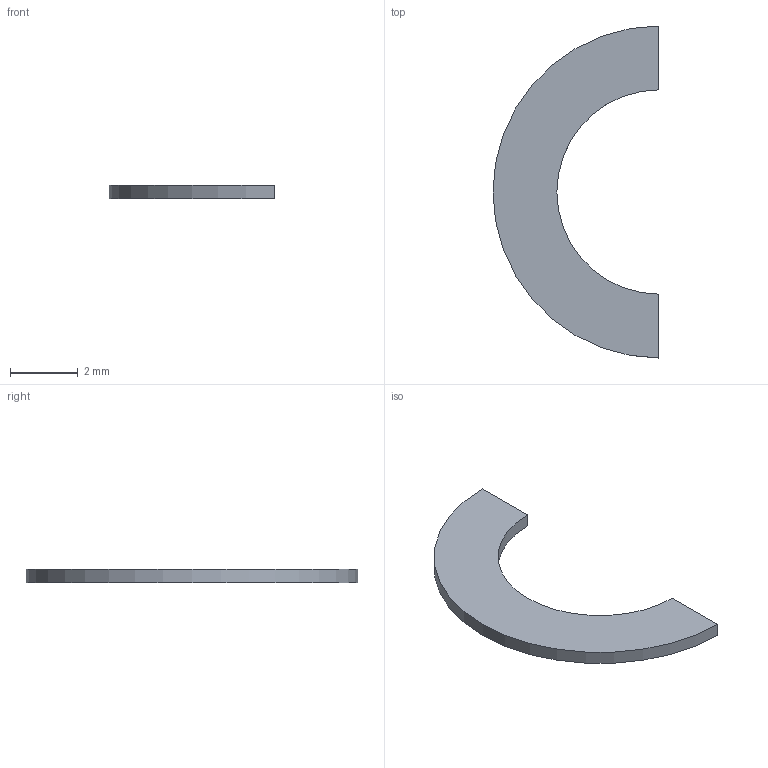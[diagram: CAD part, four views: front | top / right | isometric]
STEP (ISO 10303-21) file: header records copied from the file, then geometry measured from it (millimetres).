
FILE_DESCRIPTION(('Open CASCADE Model'),'2;1');
FILE_NAME('Open CASCADE Shape Model','2026-09-24T19:52:59',('Author'),( 'Open CASCADE'),'Open CASCADE STEP processor 7.8','Open CASCADE 7.8' ,'Unknown');
FILE_SCHEMA(('AUTOMOTIVE_DESIGN { 1 0 10303 214 1 1 1 1 }'));
Length unit declared in the file: millimetre
Products named in the file (1): Open CASCADE STEP translator 7.8 42
Bounding box: 4.9 x 9.8 x 0.4 mm (x, y, z)
Volume: 9.4 mm3; surface area: 58.3 mm2
Topology: 1 solids, 1 shells, 6 faces, 12 edges, 8 vertices
Faces by surface type: plane 4, cylinder 2
Entity records: 310 total; most frequent: CARTESIAN_POINT 67, DIRECTION 38, ORIENTED_EDGE 24, PCURVE 24, DEFINITIONAL_REPRESENTATION 24, B_SPLINE_CURVE_WITH_KNOTS 16, EDGE_CURVE 12, SURFACE_CURVE 12
